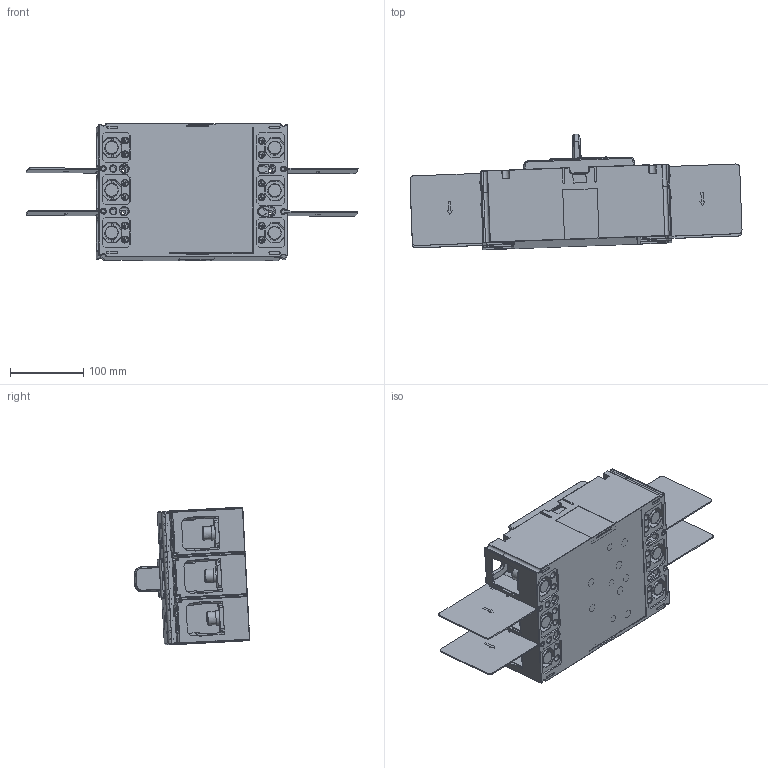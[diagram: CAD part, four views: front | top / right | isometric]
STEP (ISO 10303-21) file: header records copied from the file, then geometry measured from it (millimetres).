
FILE_DESCRIPTION((''),'2;1');
FILE_NAME('2253030900_SW0001','2023-12-12T',('shuanglong.wu'),(''),'PRO/ENGINEER BY PARAMETRIC TECHNOLOGY CORPORATION, 2015440','PRO/ENGINEER BY PARAMETRIC TECHNOLOGY CORPORATION, 2015440','');
FILE_SCHEMA(('CONFIG_CONTROL_DESIGN'));
Products named in the file (1): 2253030900_SW0001
Bounding box: 451.82 x 157.15 x 187.46 mm (x, y, z)
Volume: 3867022 mm3; surface area: 599463 mm2
Topology: 13 solids, 28 shells, 6019 faces, 15809 edges, 10047 vertices
Faces by surface type: plane 3620, cylinder 1410, torus 401, extrusion 239, cone 181, bspline 100, sphere 68
Entity records: 205203 total; most frequent: CARTESIAN_POINT 56639, ORIENTED_EDGE 31594, DIRECTION 29764, EDGE_CURVE 15797, VECTOR 11280, LINE 11041, VERTEX_POINT 10047, AXIS2_PLACEMENT_3D 9242
